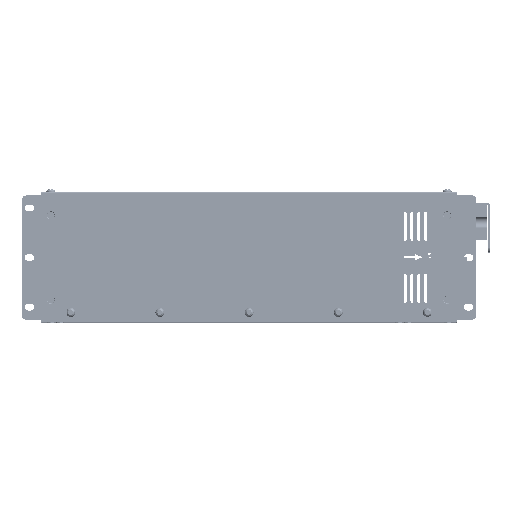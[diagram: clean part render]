
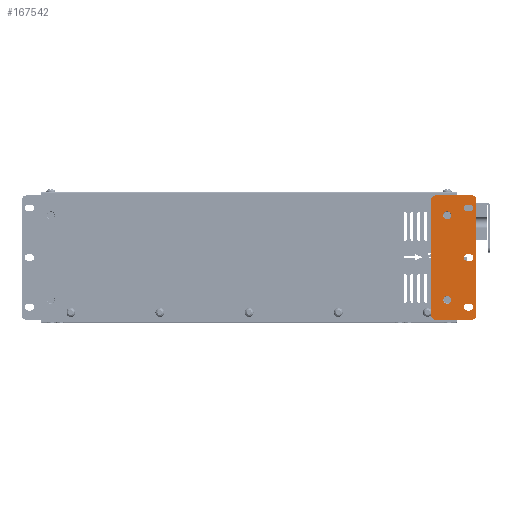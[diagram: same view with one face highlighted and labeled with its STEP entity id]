
A CAD part, top view. The second image highlights one B-rep face of the part: STEP entity #167542.
In plain terms, the highlighted planar face has unit normal (0, 0, 1).
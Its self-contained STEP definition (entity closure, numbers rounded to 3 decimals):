
#5709=FACE_BOUND('',#21744,.T.);
#5710=FACE_BOUND('',#21745,.T.);
#5711=FACE_BOUND('',#21746,.T.);
#5712=FACE_BOUND('',#21747,.T.);
#5713=FACE_BOUND('',#21748,.T.);
#7034=PLANE('',#177122);
#12614=FACE_OUTER_BOUND('',#21743,.T.);
#21743=EDGE_LOOP('',(#109891,#109892,#109893,#109894,#109895,#109896,#109897,
#109898));
#21744=EDGE_LOOP('',(#109899));
#21745=EDGE_LOOP('',(#109900));
#21746=EDGE_LOOP('',(#109901,#109902,#109903,#109904));
#21747=EDGE_LOOP('',(#109905,#109906,#109907,#109908));
#21748=EDGE_LOOP('',(#109909,#109910,#109911,#109912));
#32096=LINE('',#232787,#48056);
#32099=LINE('',#232794,#48059);
#32102=LINE('',#232803,#48062);
#32105=LINE('',#232810,#48065);
#32108=LINE('',#232819,#48068);
#32111=LINE('',#232826,#48071);
#32116=LINE('',#232861,#48076);
#32123=LINE('',#232875,#48083);
#32127=LINE('',#232884,#48087);
#32130=LINE('',#232891,#48090);
#48056=VECTOR('',#191071,10.);
#48059=VECTOR('',#191080,10.);
#48062=VECTOR('',#191089,10.);
#48065=VECTOR('',#191098,10.);
#48068=VECTOR('',#191107,10.);
#48071=VECTOR('',#191116,10.);
#48076=VECTOR('',#191129,10.);
#48083=VECTOR('',#191144,10.);
#48087=VECTOR('',#191154,10.);
#48090=VECTOR('',#191163,10.);
#63922=CIRCLE('',#177082,4.);
#63923=CIRCLE('',#177084,4.);
#63927=CIRCLE('',#177091,3.3);
#63928=CIRCLE('',#177094,3.3);
#63929=CIRCLE('',#177097,3.3);
#63930=CIRCLE('',#177100,3.3);
#63931=CIRCLE('',#177103,3.3);
#63932=CIRCLE('',#177106,3.3);
#63933=CIRCLE('',#177109,4.);
#63935=CIRCLE('',#177113,4.);
#63937=CIRCLE('',#177117,4.);
#63938=CIRCLE('',#177120,4.);
#68597=VERTEX_POINT('',#232763);
#68598=VERTEX_POINT('',#232767);
#68601=VERTEX_POINT('',#232780);
#68602=VERTEX_POINT('',#232781);
#68603=VERTEX_POINT('',#232786);
#68604=VERTEX_POINT('',#232790);
#68605=VERTEX_POINT('',#232796);
#68606=VERTEX_POINT('',#232797);
#68607=VERTEX_POINT('',#232802);
#68608=VERTEX_POINT('',#232806);
#68609=VERTEX_POINT('',#232812);
#68610=VERTEX_POINT('',#232813);
#68611=VERTEX_POINT('',#232818);
#68612=VERTEX_POINT('',#232822);
#68613=VERTEX_POINT('',#232828);
#68614=VERTEX_POINT('',#232829);
#68620=VERTEX_POINT('',#232859);
#68621=VERTEX_POINT('',#232868);
#68623=VERTEX_POINT('',#232874);
#68624=VERTEX_POINT('',#232879);
#68625=VERTEX_POINT('',#232883);
#68626=VERTEX_POINT('',#232887);
#84667=EDGE_CURVE('',#68597,#68597,#63922,.T.);
#84669=EDGE_CURVE('',#68598,#68598,#63923,.T.);
#84676=EDGE_CURVE('',#68601,#68602,#63927,.T.);
#84679=EDGE_CURVE('',#68602,#68603,#32096,.T.);
#84681=EDGE_CURVE('',#68603,#68604,#63928,.T.);
#84683=EDGE_CURVE('',#68604,#68601,#32099,.T.);
#84684=EDGE_CURVE('',#68605,#68606,#63929,.T.);
#84687=EDGE_CURVE('',#68606,#68607,#32102,.T.);
#84689=EDGE_CURVE('',#68607,#68608,#63930,.T.);
#84691=EDGE_CURVE('',#68608,#68605,#32105,.T.);
#84692=EDGE_CURVE('',#68609,#68610,#63931,.T.);
#84695=EDGE_CURVE('',#68610,#68611,#32108,.T.);
#84697=EDGE_CURVE('',#68611,#68612,#63932,.T.);
#84699=EDGE_CURVE('',#68612,#68609,#32111,.T.);
#84700=EDGE_CURVE('',#68613,#68614,#63933,.T.);
#84707=EDGE_CURVE('',#68614,#68620,#32116,.T.);
#84713=EDGE_CURVE('',#68620,#68621,#63935,.T.);
#84716=EDGE_CURVE('',#68621,#68623,#32123,.T.);
#84719=EDGE_CURVE('',#68623,#68624,#63937,.T.);
#84721=EDGE_CURVE('',#68624,#68625,#32127,.T.);
#84723=EDGE_CURVE('',#68625,#68626,#63938,.T.);
#84725=EDGE_CURVE('',#68626,#68613,#32130,.T.);
#109891=ORIENTED_EDGE('',*,*,#84725,.T.);
#109892=ORIENTED_EDGE('',*,*,#84700,.T.);
#109893=ORIENTED_EDGE('',*,*,#84707,.T.);
#109894=ORIENTED_EDGE('',*,*,#84713,.T.);
#109895=ORIENTED_EDGE('',*,*,#84716,.T.);
#109896=ORIENTED_EDGE('',*,*,#84719,.T.);
#109897=ORIENTED_EDGE('',*,*,#84721,.T.);
#109898=ORIENTED_EDGE('',*,*,#84723,.T.);
#109899=ORIENTED_EDGE('',*,*,#84667,.T.);
#109900=ORIENTED_EDGE('',*,*,#84669,.T.);
#109901=ORIENTED_EDGE('',*,*,#84699,.T.);
#109902=ORIENTED_EDGE('',*,*,#84692,.T.);
#109903=ORIENTED_EDGE('',*,*,#84695,.T.);
#109904=ORIENTED_EDGE('',*,*,#84697,.T.);
#109905=ORIENTED_EDGE('',*,*,#84691,.T.);
#109906=ORIENTED_EDGE('',*,*,#84684,.T.);
#109907=ORIENTED_EDGE('',*,*,#84687,.T.);
#109908=ORIENTED_EDGE('',*,*,#84689,.T.);
#109909=ORIENTED_EDGE('',*,*,#84683,.T.);
#109910=ORIENTED_EDGE('',*,*,#84676,.T.);
#109911=ORIENTED_EDGE('',*,*,#84679,.T.);
#109912=ORIENTED_EDGE('',*,*,#84681,.T.);
#167542=ADVANCED_FACE('',(#12614,#5709,#5710,#5711,#5712,#5713),#7034,.T.);
#177082=AXIS2_PLACEMENT_3D('',#232764,#191043,#191044);
#177084=AXIS2_PLACEMENT_3D('',#232768,#191048,#191049);
#177091=AXIS2_PLACEMENT_3D('',#232782,#191065,#191066);
#177094=AXIS2_PLACEMENT_3D('',#232791,#191075,#191076);
#177097=AXIS2_PLACEMENT_3D('',#232798,#191083,#191084);
#177100=AXIS2_PLACEMENT_3D('',#232807,#191093,#191094);
#177103=AXIS2_PLACEMENT_3D('',#232814,#191101,#191102);
#177106=AXIS2_PLACEMENT_3D('',#232823,#191111,#191112);
#177109=AXIS2_PLACEMENT_3D('',#232830,#191119,#191120);
#177113=AXIS2_PLACEMENT_3D('',#232869,#191137,#191138);
#177117=AXIS2_PLACEMENT_3D('',#232880,#191149,#191150);
#177120=AXIS2_PLACEMENT_3D('',#232888,#191158,#191159);
#177122=AXIS2_PLACEMENT_3D('',#232893,#191165,#191166);
#191043=DIRECTION('center_axis',(0.,0.,
-1.));
#191044=DIRECTION('ref_axis',(-1.,0.,0.));
#191048=DIRECTION('center_axis',(0.,0.,
-1.));
#191049=DIRECTION('ref_axis',(-1.,0.,0.));
#191065=DIRECTION('center_axis',(0.,0.,
-1.));
#191066=DIRECTION('ref_axis',(0.,1.,0.));
#191071=DIRECTION('',(-1.,0.,0.));
#191075=DIRECTION('center_axis',(0.,0.,
-1.));
#191076=DIRECTION('ref_axis',(0.,-1.,0.));
#191080=DIRECTION('',(1.,0.,0.));
#191083=DIRECTION('center_axis',(0.,0.,
-1.));
#191084=DIRECTION('ref_axis',(0.,1.,0.));
#191089=DIRECTION('',(-1.,0.,0.));
#191093=DIRECTION('center_axis',(0.,0.,
-1.));
#191094=DIRECTION('ref_axis',(0.,-1.,0.));
#191098=DIRECTION('',(1.,0.,0.));
#191101=DIRECTION('center_axis',(0.,0.,
-1.));
#191102=DIRECTION('ref_axis',(0.,1.,0.));
#191107=DIRECTION('',(-1.,0.,0.));
#191111=DIRECTION('center_axis',(0.,0.,
-1.));
#191112=DIRECTION('ref_axis',(0.,-1.,0.));
#191116=DIRECTION('',(1.,0.,0.));
#191119=DIRECTION('center_axis',(0.,0.,
1.));
#191120=DIRECTION('ref_axis',(0.,1.,0.));
#191129=DIRECTION('',(0.,-1.,0.));
#191137=DIRECTION('center_axis',(0.,0.,
1.));
#191138=DIRECTION('ref_axis',(-1.,0.,0.));
#191144=DIRECTION('',(1.,0.,0.));
#191149=DIRECTION('center_axis',(0.,0.,
1.));
#191150=DIRECTION('ref_axis',(0.,-1.,0.));
#191154=DIRECTION('',(0.,1.,0.));
#191158=DIRECTION('center_axis',(0.,0.,
1.));
#191159=DIRECTION('ref_axis',(1.,0.,0.));
#191163=DIRECTION('',(-1.,0.,0.));
#191165=DIRECTION('center_axis',(0.,0.,
1.));
#191166=DIRECTION('ref_axis',(0.,-1.,0.));
#232763=CARTESIAN_POINT('',(203.405,39.114,125.5));
#232764=CARTESIAN_POINT('Origin',(199.405,39.114,125.5));
#232767=CARTESIAN_POINT('',(203.405,-45.886,125.5));
#232768=CARTESIAN_POINT('Origin',(199.405,-45.886,125.5));
#232780=CARTESIAN_POINT('',(222.405,49.914,125.5));
#232781=CARTESIAN_POINT('',(222.405,43.314,125.5));
#232782=CARTESIAN_POINT('Origin',(222.405,46.614,125.5));
#232786=CARTESIAN_POINT('',(219.405,43.314,125.5));
#232787=CARTESIAN_POINT('',(222.405,43.314,125.5));
#232790=CARTESIAN_POINT('',(219.405,49.914,125.5));
#232791=CARTESIAN_POINT('Origin',(219.405,46.614,125.5));
#232794=CARTESIAN_POINT('',(219.405,49.914,125.5));
#232796=CARTESIAN_POINT('',(222.405,-0.086,125.5));
#232797=CARTESIAN_POINT('',(222.405,-6.686,125.5));
#232798=CARTESIAN_POINT('Origin',(222.405,-3.386,125.5));
#232802=CARTESIAN_POINT('',(219.405,-6.686,125.5));
#232803=CARTESIAN_POINT('',(222.405,-6.686,125.5));
#232806=CARTESIAN_POINT('',(219.405,-0.086,125.5));
#232807=CARTESIAN_POINT('Origin',(219.405,-3.386,125.5));
#232810=CARTESIAN_POINT('',(219.405,-0.086,125.5));
#232812=CARTESIAN_POINT('',(222.405,-50.086,125.5));
#232813=CARTESIAN_POINT('',(222.405,-56.686,125.5));
#232814=CARTESIAN_POINT('Origin',(222.405,-53.386,125.5));
#232818=CARTESIAN_POINT('',(219.405,-56.686,125.5));
#232819=CARTESIAN_POINT('',(222.405,-56.686,125.5));
#232822=CARTESIAN_POINT('',(219.405,-50.086,125.5));
#232823=CARTESIAN_POINT('Origin',(219.405,-53.386,125.5));
#232826=CARTESIAN_POINT('',(219.405,-50.086,125.5));
#232828=CARTESIAN_POINT('',(187.405,59.114,125.5));
#232829=CARTESIAN_POINT('',(183.405,55.114,125.5));
#232830=CARTESIAN_POINT('Origin',(187.405,55.114,125.5));
#232859=CARTESIAN_POINT('',(183.405,-61.886,125.5));
#232861=CARTESIAN_POINT('',(183.405,55.114,125.5));
#232868=CARTESIAN_POINT('',(187.405,-65.886,125.5));
#232869=CARTESIAN_POINT('Origin',(187.405,-61.886,125.5));
#232874=CARTESIAN_POINT('',(224.405,-65.886,125.5));
#232875=CARTESIAN_POINT('',(187.405,-65.886,125.5));
#232879=CARTESIAN_POINT('',(228.405,-61.886,125.5));
#232880=CARTESIAN_POINT('Origin',(224.405,-61.886,125.5));
#232883=CARTESIAN_POINT('',(228.405,55.114,125.5));
#232884=CARTESIAN_POINT('',(228.405,-61.886,125.5));
#232887=CARTESIAN_POINT('',(224.405,59.114,125.5));
#232888=CARTESIAN_POINT('Origin',(224.405,55.114,125.5));
#232891=CARTESIAN_POINT('',(224.405,59.114,125.5));
#232893=CARTESIAN_POINT('Origin',(205.905,-3.386,125.5));
